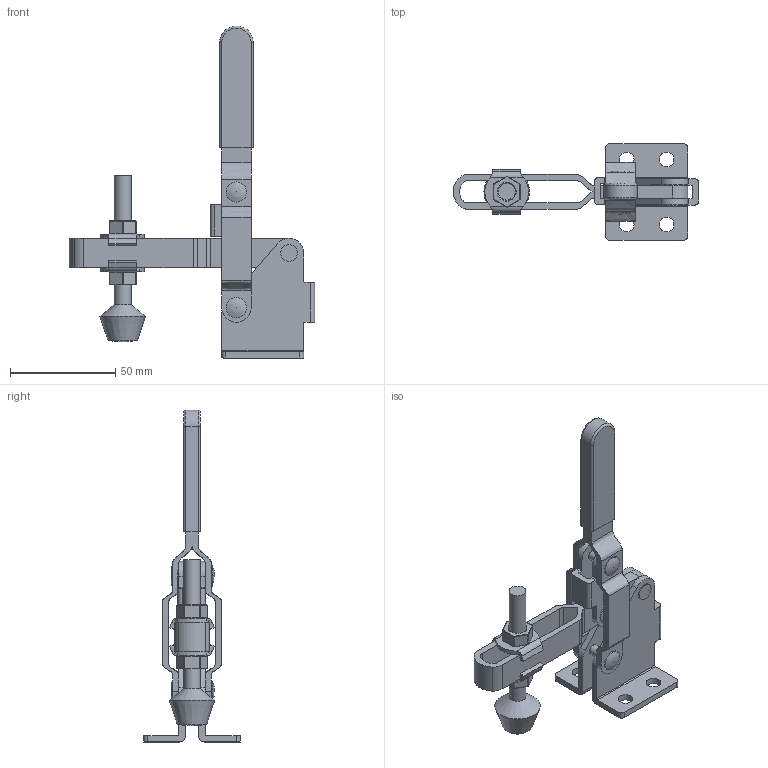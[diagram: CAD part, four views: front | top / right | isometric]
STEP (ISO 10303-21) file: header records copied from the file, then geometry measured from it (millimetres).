
FILE_DESCRIPTION(/* description */ (''),/* implementation_level */ '2;1');
FILE_NAME(/* name */ '\\NAS\db20\018-11F\DR_018-11F.stp',/* time_stamp */ '2018-03-02T13:40:14+09:00',/* author */ ('user'),/* organization */ (''),/* preprocessor_version */ 'ST-DEVELOPER v15.6',/* originating_system */ 'Autodesk Inventor 2015',/* authorisation */ '');
FILE_SCHEMA (('AP242_MANAGED_MODEL_BASED_3D_ENGINEERING_MIM_LF','AUTOMOTIVE_DESIGN { 1 0 10303 214 3 1 1 }'));
Length unit declared in the file: millimetre
Products named in the file (9): DR_018-11F-B; DR_018-11F-BR; DR_018-11F-C; DR_018-11F-H; DR_TCB8-W; DR_NUT-M8; DR_TCB-M8; DR_018-11F
Bounding box: 116.67 x 46 x 158 mm (x, y, z)
Volume: 52365 mm3; surface area: 36630.5 mm2
Topology: 10 solids, 10 shells, 319 faces, 796 edges, 502 vertices
Faces by surface type: cylinder 128, plane 125, torus 32, bspline 21, cone 10, sphere 3
Full cylindrical faces by diameter (mm): 4 x1, 5 x15, 7 x5, 8 x4, 8.5 x2, 9.6 x2, 9.8 x1
Entity records: 8446 total; most frequent: CARTESIAN_POINT 2240, DIRECTION 1286, ORIENTED_EDGE 1164, EDGE_CURVE 582, AXIS2_PLACEMENT_3D 484, VERTEX_POINT 398, EDGE_LOOP 338, LINE 318
